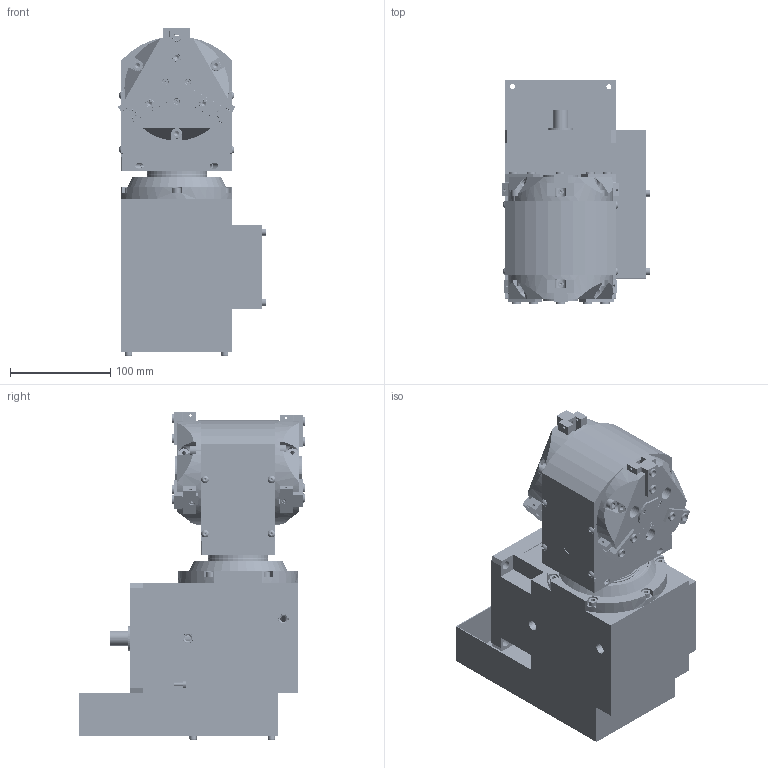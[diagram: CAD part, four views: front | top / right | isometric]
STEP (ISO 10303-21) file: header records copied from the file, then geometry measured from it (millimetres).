
FILE_DESCRIPTION (( 'STEP AP214' ), '1' );
FILE_NAME ('SBG050-D3PG-100.STEP', '2012-03-13T04:51:51', ( 'xw4600' ), ( '' ), 'SwSTEP 2.0', 'SolidWorks 2010', '' );
FILE_SCHEMA (( 'AUTOMOTIVE_DESIGN' ));
Length unit declared in the file: millimetre
Products named in the file (38): DBR110-2.0-A00-00_Default; DBR110-20-A00-01_Default; DBR110-20-A00-02_Default; DBR110-20-A00-03_Default; DBR110-20-A00-04_Default; DBR110-20-A00-05_Default; DBR110-20-A00-08_Default; DBR110-20-A00-09_Default; DBR110-20-A00-11_Default; DBR110-20-A00-12_Default; DBR110-20-A00-13_Default; SENSOR-%%C8_Default; OIL SEAL(TC-60-82-9)_Default; OIL SEAL(TC-25-40-7)_Default; PIN(8X20)_Default; BB M4 x 40_PreviewCfg; BB M4 x 50_PreviewCfg; BB M5 x 20_PreviewCfg; BB M5 x 30_PreviewCfg; BB M8 x 25_PreviewCfg; D3PG100-00_Default; D3PG100-02_Default; D3PG100-11_Default; D3PG100-01_ル遽; D3PG100-04_ル遽; D3PG100-07_ル遽; D3PG100-10_ル遽; Q-RING(Q4117)_Default; O-rings(S75)_O-ring 75x2.65-B-ISO 3601-1; D3PG100-06-1_ル遽; D3PG100-06-2_ル遽; SPRING(D3PG100)_Default; Socket Head Cap Screw_ISO_ISO 4762 M3 x 25 --- 25N; Socket Countersunk Head Screw_ISO_ISO 10642 - M3 x 8 --- 8N; Socket Button Head Screw_ISO_ISO 7380 - M4 x 8 --- 8N; Socket Head Cap Screw_ISO_ISO 4762 M6 x 16 --- 16N; BB M8 x 20_PreviewCfg; SBG050-D3PG-100
Assembly tree (108 placements, depth 3):
  SBG050-D3PG-100
    BB M8 x 20_PreviewCfg  x4
    D3PG100-00_Default
      D3PG100-04_ル遽  x6
      D3PG100-10_ル遽  x12
      SPRING(D3PG100)_Default  x4
      Socket Button Head Screw_ISO_ISO 7380 - M4 x 8 --- 8N  x8
      O-rings(S75)_O-ring 75x2.65-B-ISO 3601-1  x2
      Socket Countersunk Head Screw_ISO_ISO 10642 - M3 x 8 --- 8N  x6
      D3PG100-06-2_ル遽  x2
      D3PG100-01_ル遽  x2
      D3PG100-07_ル遽  x2
      D3PG100-06-1_ル遽  x2
      Q-RING(Q4117)_Default  x2
      Socket Head Cap Screw_ISO_ISO 4762 M6 x 16 --- 16N  x6
      D3PG100-02_Default
      Socket Head Cap Screw_ISO_ISO 4762 M3 x 25 --- 25N  x4
      D3PG100-11_Default  x2
    DBR110-2.0-A00-00_Default
      DBR110-20-A00-04_Default
      BB M5 x 20_PreviewCfg  x10
      DBR110-20-A00-01_Default
      DBR110-20-A00-13_Default
      BB M5 x 30_PreviewCfg  x2
      DBR110-20-A00-03_Default
      BB M4 x 40_PreviewCfg  x4
      DBR110-20-A00-12_Default
      DBR110-20-A00-02_Default
      PIN(8X20)_Default  x2
      DBR110-20-A00-11_Default
      DBR110-20-A00-09_Default  x3
      OIL SEAL(TC-25-40-7)_Default
      BB M8 x 25_PreviewCfg  x2
      OIL SEAL(TC-60-82-9)_Default
      BB M4 x 50_PreviewCfg  x4
      SENSOR-%%C8_Default  x3
      DBR110-20-A00-08_Default
      DBR110-20-A00-05_Default
Bounding box: 147.5 x 224 x 325.76 mm (x, y, z)
Volume: 2719282.7 mm3; surface area: 753949.6 mm2
Topology: 108 solids, 114 shells, 3880 faces, 9069 edges, 5391 vertices
Faces by surface type: plane 1508, cylinder 1326, cone 670, torus 352, sphere 16, bspline 8
Entity records: 62839 total; most frequent: CARTESIAN_POINT 14250, DIRECTION 10037, ORIENTED_EDGE 8690, EDGE_CURVE 4345, AXIS2_PLACEMENT_3D 3954, VERTEX_POINT 2699, EDGE_LOOP 2288, VECTOR 2129
